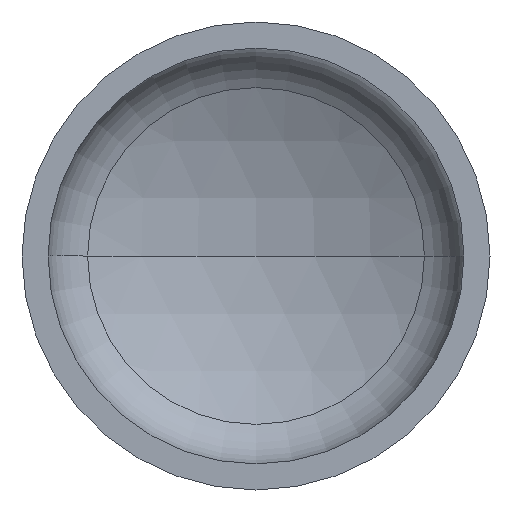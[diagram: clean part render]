
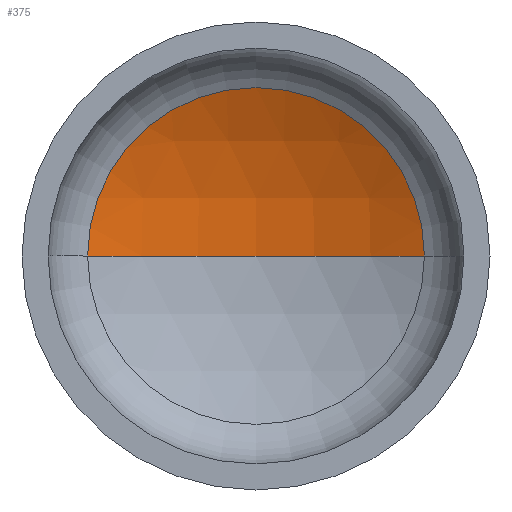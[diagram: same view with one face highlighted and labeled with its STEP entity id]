
A CAD part, front view. The second image highlights one B-rep face of the part: STEP entity #375.
In plain terms, the highlighted spherical face has radius 1120 mm.
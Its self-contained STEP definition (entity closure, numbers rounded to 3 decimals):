
#5 = AXIS2_PLACEMENT_3D ( 'NONE', #361, #119, #287 ) ;
#15 = ORIENTED_EDGE ( 'NONE', *, *, #350, .F. ) ;
#25 = VERTEX_POINT ( 'NONE', #342 ) ;
#28 = VERTEX_POINT ( 'NONE', #224 ) ;
#29 = AXIS2_PLACEMENT_3D ( 'NONE', #289, #130, #330 ) ;
#35 = EDGE_LOOP ( 'NONE', ( #15, #115, #102 ) ) ;
#38 = AXIS2_PLACEMENT_3D ( 'NONE', #310, #171, #337 ) ;
#51 = AXIS2_PLACEMENT_3D ( 'NONE', #380, #218, #359 ) ;
#102 = ORIENTED_EDGE ( 'NONE', *, *, #355, .T. ) ;
#109 = VERTEX_POINT ( 'NONE', #153 ) ;
#115 = ORIENTED_EDGE ( 'NONE', *, *, #335, .T. ) ;
#119 = DIRECTION ( 'NONE',  ( 0., 0., -1. ) ) ;
#130 = DIRECTION ( 'NONE',  ( 0., -1., 0. ) ) ;
#153 = CARTESIAN_POINT ( 'NONE',  ( 503.691, 312.031, 0. ) ) ;
#171 = DIRECTION ( 'NONE',  ( 0., 0., 1. ) ) ;
#197 = FACE_OUTER_BOUND ( 'NONE', #35, .T. ) ;
#218 = DIRECTION ( 'NONE',  ( 0., 0., -1. ) ) ;
#224 = CARTESIAN_POINT ( 'NONE',  ( -503.691, 312.031, 0. ) ) ;
#272 = CIRCLE ( 'NONE', #38, 1120. ) ;
#287 = DIRECTION ( 'NONE',  ( -1., 0., 0. ) ) ;
#289 = CARTESIAN_POINT ( 'NONE',  ( 0., 312.031, 0. ) ) ;
#310 = CARTESIAN_POINT ( 'NONE',  ( 0., -688.317, 0. ) ) ;
#325 = CIRCLE ( 'NONE', #29, 503.691 ) ;
#330 = DIRECTION ( 'NONE',  ( 1., 0., 0. ) ) ;
#335 = EDGE_CURVE ( 'NONE', #25, #109, #344, .T. ) ;
#337 = DIRECTION ( 'NONE',  ( 1., 0., 0. ) ) ;
#342 = CARTESIAN_POINT ( 'NONE',  ( 0., 431.683, 0. ) ) ;
#344 = CIRCLE ( 'NONE', #51, 1120. ) ;
#350 = EDGE_CURVE ( 'NONE', #25, #28, #272, .T. ) ;
#355 = EDGE_CURVE ( 'NONE', #109, #28, #325, .T. ) ;
#359 = DIRECTION ( 'NONE',  ( -1., 0., 0. ) ) ;
#361 = CARTESIAN_POINT ( 'NONE',  ( 0., -688.317, 0. ) ) ;
#375 = ADVANCED_FACE ( 'NONE', ( #197 ), #381, .F. ) ;
#380 = CARTESIAN_POINT ( 'NONE',  ( 0., -688.317, 0. ) ) ;
#381 = SPHERICAL_SURFACE ( 'NONE', #5, 1120. ) ;
